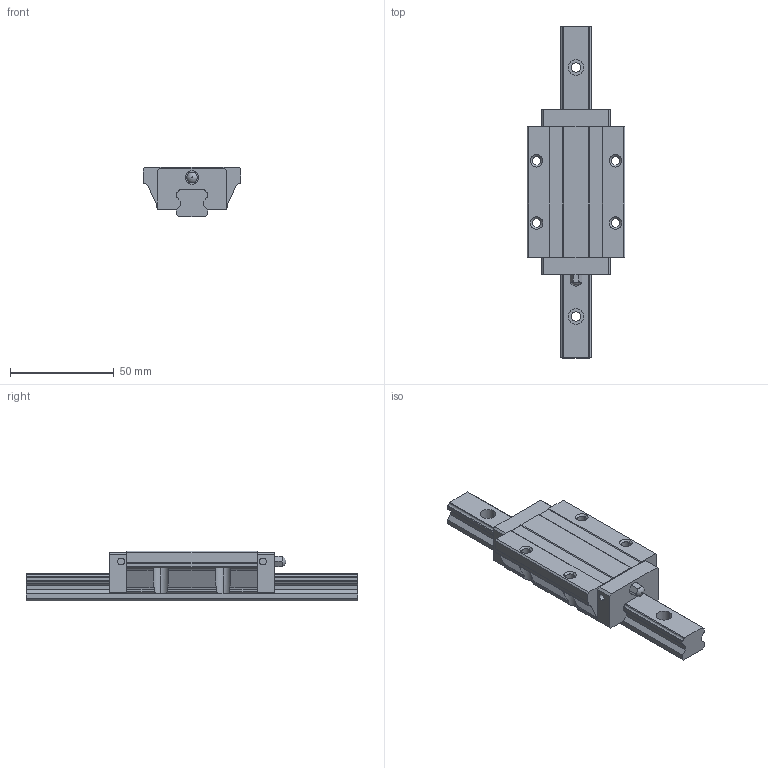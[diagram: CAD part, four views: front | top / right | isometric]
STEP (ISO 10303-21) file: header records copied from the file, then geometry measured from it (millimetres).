
FILE_DESCRIPTION((''),'1');
FILE_NAME(' ',' ',(''),(''),'ACIS Interop R16','Kubotek KeyCreator V6.5.2 (0407)',' ');
FILE_SCHEMA(('CONFIG_CONTROL_DESIGN'));
Length unit declared in the file: millimetre
Products named in the file (3): 1; 2; 3
Bounding box: 47 x 160 x 24 mm (x, y, z)
Volume: 79354.2 mm3; surface area: 23873.3 mm2
Topology: 3 solids, 3 shells, 195 faces, 536 edges, 358 vertices
Faces by surface type: plane 107, cylinder 76, cone 10, sphere 2
Entity records: 6460 total; most frequent: CARTESIAN_POINT 1146, DIRECTION 1120, ORIENTED_EDGE 1072, EDGE_CURVE 536, AXIS2_PLACEMENT_3D 394, VERTEX_POINT 358, LINE 332, VECTOR 332
